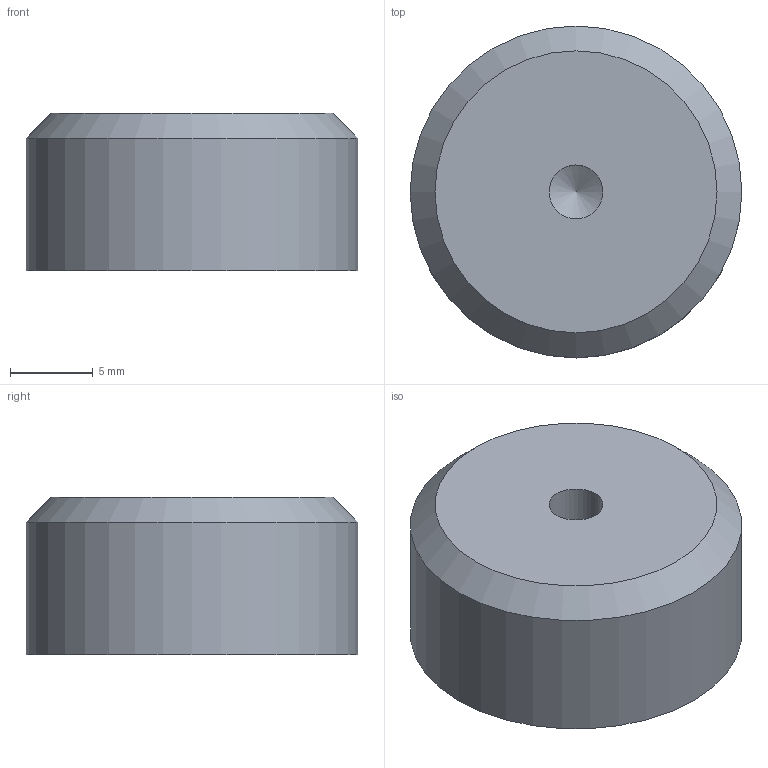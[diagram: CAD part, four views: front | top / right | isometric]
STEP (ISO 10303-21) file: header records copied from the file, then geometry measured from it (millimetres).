
FILE_DESCRIPTION(/* description */ (''),/* implementation_level */ '2;1');
FILE_NAME(/* name */ '\\NAS\db20\B-MP1\DR_B-MP1.stp',/* time_stamp */ '2017-09-07T15:33:14+09:00',/* author */ ('user'),/* organization */ (''),/* preprocessor_version */ 'ST-DEVELOPER v15.6',/* originating_system */ 'Autodesk Inventor 2015',/* authorisation */ '');
FILE_SCHEMA (('AUTOMOTIVE_DESIGN { 1 0 10303 214 3 1 1 }'));
Length unit declared in the file: millimetre
Products named in the file (1): DR_B-MP1
Bounding box: 20 x 20 x 9.5 mm (x, y, z)
Volume: 2881.7 mm3; surface area: 1209.2 mm2
Topology: 1 solids, 1 shells, 6 faces, 10 edges, 6 vertices
Faces by surface type: cone 2, cylinder 2, plane 2
Full cylindrical faces by diameter (mm): 3.242 x1, 20 x1
Entity records: 138 total; most frequent: DIRECTION 24, CARTESIAN_POINT 17, AXIS2_PLACEMENT_3D 12, EDGE_LOOP 10, ORIENTED_EDGE 10, FACE_OUTER_BOUND 6, ADVANCED_FACE 6, CIRCLE 5
